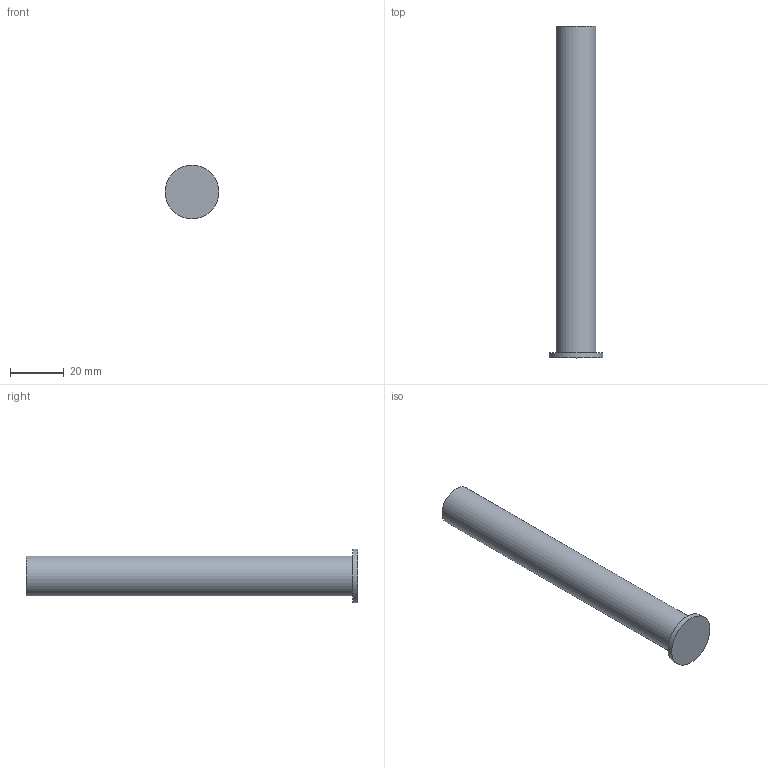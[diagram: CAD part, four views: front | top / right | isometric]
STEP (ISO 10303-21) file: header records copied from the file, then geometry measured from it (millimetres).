
FILE_DESCRIPTION(/* description */ ('STEP AP242 Edition 2','CAx-IF Rec.Pracs.---Representation and Presentation of Product Manufacturing Information (PMI)---4.0---2014-10-13','CAx-IF Rec.Pracs.---3D Tessellated Geometry---0.4---2014-09-14','2;1','CAx-IF Rec.Pracs.---User Defined Attributes---1.5---2016-08-15'),/* implementation_level */ '2;1');
FILE_NAME(/* name */ '6934b2f7dd57ab0fa8c877d0',/* time_stamp */ '2025-12-06T22:49:27Z',/* author */ (''),/* organization */ (''),/* preprocessor_version */ 'ST-DEVELOPER v20',/* originating_system */ 'ONSHAPE BY PTC INC, 1.207',/* authorisation */ ' ');
FILE_SCHEMA (('AP242_MANAGED_MODEL_BASED_3D_ENGINEERING_MIM_LF { 1 0 10303 442 3 1 4 }'));
Length unit declared in the file: metre
Products named in the file (1): v1
Bounding box: 20 x 123 x 20 mm (x, y, z)
Volume: 21203.4 mm3; surface area: 6461.5 mm2
Topology: 1 solids, 1 shells, 7 faces, 9 edges, 6 vertices
Faces by surface type: plane 4, cylinder 3
Full cylindrical faces by diameter (mm): 4 x1, 14.75 x1, 20 x1
Entity records: 156 total; most frequent: DIRECTION 28, CARTESIAN_POINT 20, AXIS2_PLACEMENT_3D 14, ORIENTED_EDGE 12, EDGE_LOOP 12, FACE_BOUND 12, ADVANCED_FACE 7, EDGE_CURVE 6
